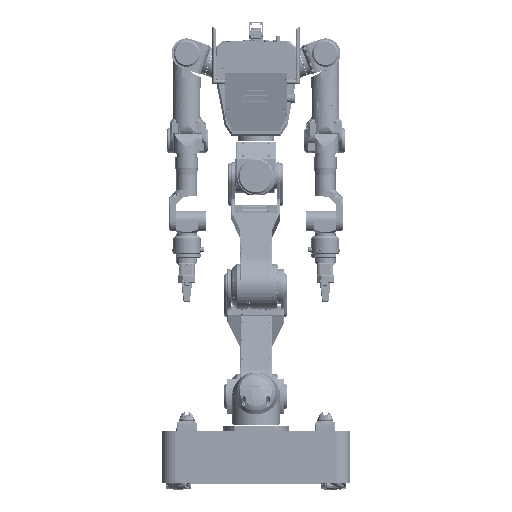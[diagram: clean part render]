
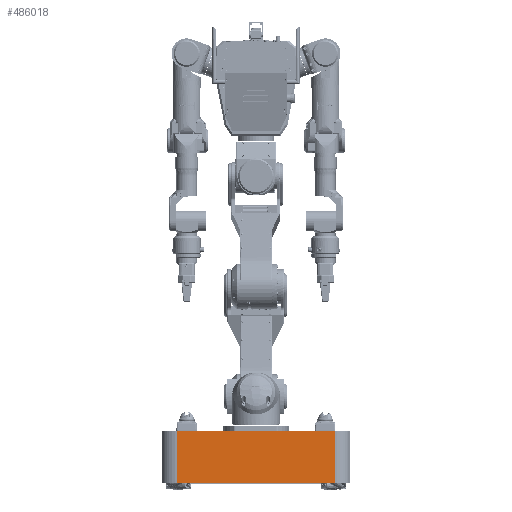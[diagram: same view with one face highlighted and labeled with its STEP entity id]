
A CAD part, left-side view. The second image highlights one B-rep face of the part: STEP entity #486018.
In plain terms, the highlighted planar face has unit normal (-1, 0, 0).
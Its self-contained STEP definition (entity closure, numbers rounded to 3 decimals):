
#23139=PLANE('',#522882);
#64572=FACE_OUTER_BOUND('',#94408,.T.);
#94408=EDGE_LOOP('',(#343219,#343220,#343221,#343222));
#125256=LINE('',#764662,#157537);
#125278=LINE('',#764745,#157559);
#125283=LINE('',#764759,#157564);
#125284=LINE('',#764760,#157565);
#157537=VECTOR('',#585822,1000.);
#157559=VECTOR('',#585890,1000.);
#157564=VECTOR('',#585903,1000.);
#157565=VECTOR('',#585904,1000.);
#219687=VERTEX_POINT('',#764659);
#219688=VERTEX_POINT('',#764661);
#219725=VERTEX_POINT('',#764742);
#219726=VERTEX_POINT('',#764744);
#267955=EDGE_CURVE('',#219687,#219688,#125256,.T.);
#267998=EDGE_CURVE('',#219726,#219725,#125278,.T.);
#268006=EDGE_CURVE('',#219725,#219688,#125283,.T.);
#268007=EDGE_CURVE('',#219687,#219726,#125284,.T.);
#343219=ORIENTED_EDGE('',*,*,#267998,.T.);
#343220=ORIENTED_EDGE('',*,*,#268006,.T.);
#343221=ORIENTED_EDGE('',*,*,#267955,.F.);
#343222=ORIENTED_EDGE('',*,*,#268007,.T.);
#486018=ADVANCED_FACE('',(#64572),#23139,.F.);
#522882=AXIS2_PLACEMENT_3D('',#764758,#585901,#585902);
#585822=DIRECTION('',(0.,-1.,0.));
#585890=DIRECTION('',(0.,-1.,0.));
#585901=DIRECTION('center_axis',(1.,0.,0.));
#585902=DIRECTION('ref_axis',(0.,0.,
1.));
#585903=DIRECTION('',(0.,0.,1.));
#585904=DIRECTION('',(0.,0.,-1.));
#764659=CARTESIAN_POINT('',(-349.5,250.,185.6));
#764661=CARTESIAN_POINT('',(-349.5,-250.,185.6));
#764662=CARTESIAN_POINT('',(-349.5,300.,185.6));
#764742=CARTESIAN_POINT('',(-349.5,-250.,20.6));
#764744=CARTESIAN_POINT('',(-349.5,250.,20.6));
#764745=CARTESIAN_POINT('',(-349.5,300.,20.6));
#764758=CARTESIAN_POINT('Origin',(-349.5,300.,185.6));
#764759=CARTESIAN_POINT('',(-349.5,-250.,185.6));
#764760=CARTESIAN_POINT('',(-349.5,250.,185.6));
